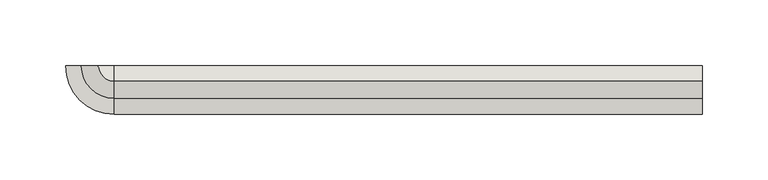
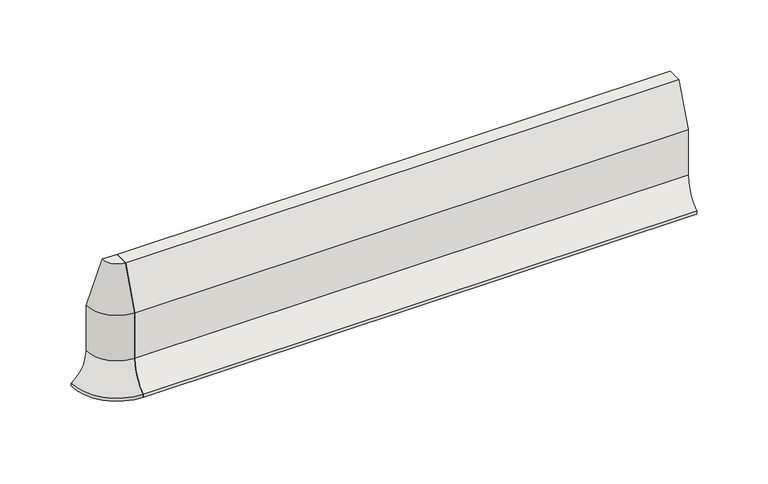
"""IFC4 building model written with IfcOpenShell, lengths in millimetres: wall geometry, GM_PC_UN_ACO kerb PB outside corner_ACO : PB H100 plain."""

from ifc_helpers import new_model, si_unit, point, frame, frame_2d, origin, place, context, project, spatial, polyline, circle_curve, ellipse_curve, trimmed, segment, composite_curve, outline, extrude, source, transform, mapped, element, save
from ifc_brep_helpers import plane_surface, cylinder_surface, revolved_surface, advanced_brep


def wall_b027a9d7(model_context):
    return source(origin(), model_context, "Body", "SolidModel", [
        extrude(outline(composite_curve([segment(polyline([(-25.0, 65.0), (-12.0, 100.0), (0.0, 100.0), (0.0, 0.0), (-37.0, 0.0), (-37.0, 2.5)]), True, "CONTINUOUS"), segment(trimmed(circle_curve(frame_2d((-54.0104167, 26.0)), 29.0104167), [point((-37.0, 2.5))], [point((-25.0, 26.0))], True, "CARTESIAN"), True, "CONTINUOUS"), segment(polyline([(-25.0, 26.0), (-25.0, 65.0)]), True, "CONTINUOUS")], self_intersect=False)), frame((0.0, 0.0, 0.0), z_axis=(1.0, 0.0, 0.0), x_axis=(0.0, 1.0, 0.0)), (0.0, 0.0, 1.0), 448.0),
        advanced_brep(
        [(-37.0, 0.0, 0.0), (-37.0, 0.0, 2.5), (-25.0, 0.0, 26.0), (-25.0, 0.0, 65.0), (-12.0, 0.0, 100.0), (0.0, 0.0, 100.0), (0.0, 0.0, 0.0), (0.0, -37.0, 0.0), (0.0, -12.0, 100.0), (0.0, -25.0, 65.0), (0.0, -25.0, 26.0), (0.0, -37.0, 2.5)],
        [
            (0, 1),
            (1, 2, circle_curve(frame((-54.0104167, 0.0, 26.0), z_axis=(0.0, -1.0, 0.0), x_axis=(-1.0, 0.0, 0.0)), 29.0104167)),
            (2, 3),
            (3, 4),
            (4, 5),
            (5, 6),
            (6, 0),
            (7, 6),
            (5, 8),
            (8, 9),
            (9, 10),
            (10, 11, circle_curve(frame((0.0, -54.0104167, 26.0), z_axis=(-1.0, 0.0, 0.0), x_axis=(0.0, -1.0, 0.0)), 29.0104167)),
            (11, 7),
            (11, 1, circle_curve(frame((0.0, 0.0, 2.5), z_axis=(0.0, 0.0, -1.0), x_axis=(-1.0, 0.0, 0.0)), 37.0)),
            (0, 7, circle_curve(frame((0.0, 0.0, 0.0), z_axis=(0.0, 0.0, 1.0), x_axis=(-1.0, 0.0, 0.0)), 37.0)),
            (10, 2, circle_curve(frame((0.0, 0.0, 26.0), z_axis=(0.0, 0.0, -1.0), x_axis=(-1.0, 0.0, 0.0)), 25.0)),
            (9, 3, circle_curve(frame((0.0, 0.0, 65.0), z_axis=(0.0, 0.0, -1.0), x_axis=(-1.0, 0.0, 0.0)), 25.0)),
            (8, 4, circle_curve(frame((0.0, 0.0, 100.0), z_axis=(0.0, 0.0, -1.0), x_axis=(-1.0, 0.0, 0.0)), 12.0)),
        ],
        [
            plane_surface(frame((0.0, 0.0, 460.0), z_axis=(0.0, 1.0, 0.0), x_axis=(-1.0, 0.0, 0.0))),
            plane_surface(frame((0.0, 0.0, 460.0), z_axis=(1.0, 0.0, 0.0), x_axis=(0.0, -1.0, 0.0))),
            cylinder_surface(frame((0.0, 0.0, 460.0), z_axis=(0.0, 0.0, 1.0), x_axis=(-1.0, 0.0, 0.0)), 37.0),
            revolved_surface(trimmed(ellipse_curve(frame((-54.0104167, 0.0, 26.0), z_axis=(0.0, -1.0, 0.0), x_axis=(-1.0, 0.0, 0.0)), 29.0104167, 29.0104167), [point((-37.0, 0.0, 2.5))], [point((-25.0, 0.0, 26.0))], True, "CARTESIAN"), (0.0, 0.0, 460.0), (0.0, 0.0, 1.0)),
            cylinder_surface(frame((0.0, 0.0, 460.0), z_axis=(0.0, 0.0, 1.0), x_axis=(-1.0, 0.0, 0.0)), 25.0),
            revolved_surface(polyline([(-25.0, 0.0, 65.0), (-12.0, 0.0, 100.0)]), (0.0, 0.0, 460.0), (0.0, 0.0, 1.0)),
            plane_surface(frame((0.0, 0.0, 100.0), z_axis=(0.0, 0.0, 1.0), x_axis=(-1.0, 0.0, 0.0))),
            plane_surface(frame((0.0, 0.0, 0.0), z_axis=(0.0, 0.0, -1.0), x_axis=(-1.0, 0.0, 0.0))),
        ],
        [
            (0, [[1, 2, 3, 4, 5, 6, 7]]),
            (1, [[8, -6, 9, 10, 11, 12, 13]]),
            (2, [[14, -1, 15, -13]]),
            (3, [[16, -2, -14, -12]]),
            (4, [[17, -3, -16, -11]]),
            (5, [[18, -4, -17, -10]]),
            (6, [[-5, -18, -9]]),
            (7, [[-15, -7, -8]]),
        ],
    ),
    ])


if __name__ == "__main__":
    model = new_model("IFC4")
    model_context = context("Model", 3, world=origin())
    ifc_project = project(units=[si_unit("LENGTHUNIT", "METRE", prefix="MILLI")], contexts=[model_context])
    site = spatial("IfcSite", under=ifc_project)
    building = spatial("IfcBuilding", under=site)
    placement = place(None, origin())
    wall_shape = wall_b027a9d7(model_context)
    element("IfcWall", 1, ObjectType="GM_PC_UN_ACO kerb PB outside corner_ACO : PB H100 plain", at=placement, inside=building, context=model_context, shape_type="MappedRepresentation", body=[
        mapped(wall_shape, transform((0.0, 0.0, 0.0), x_axis=(1.0, 0.0, 0.0), y_axis=(0.0, 1.0, 0.0), z_axis=(0.0, 0.0, 1.0))),
    ])
    save(model, "model.ifc")
